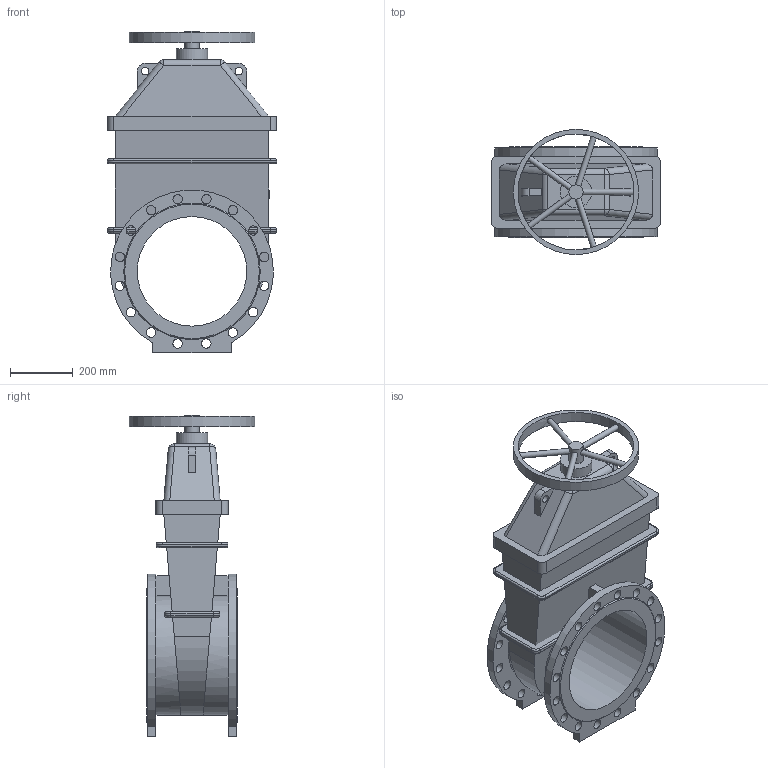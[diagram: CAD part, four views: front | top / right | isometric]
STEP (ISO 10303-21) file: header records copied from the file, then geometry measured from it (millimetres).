
FILE_DESCRIPTION(('STEP AP203'), '1');
FILE_NAME('Çàäâèæêà 47GV DN350 PN10_PN16_L290 ñ ìàõîâèêîì', '', ('UNSPECIFIED'), ('UNSPECIFIED'), 'ASCON STEP Converter 1.6', 'ASCON Math Kernel', '');
FILE_SCHEMA(('CONFIG_CONTROL_DESIGN'));
Length unit declared in the file: millimetre
Bounding box: 540 x 400 x 1027 mm (x, y, z)
Volume: 54101197.6 mm3; surface area: 2263987.3 mm2
Topology: 1 solids, 1 shells, 210 faces, 536 edges, 332 vertices
Faces by surface type: cylinder 99, plane 89, bspline 14, torus 6, cone 2
Full cylindrical faces by diameter (mm): 18 x5, 25 x2, 30 x32, 45 x1, 100 x1, 350 x1, 370 x1, 400 x1
Entity records: 10487 total; most frequent: CARTESIAN_POINT 3816, DIRECTION 985, ORIENTED_EDGE 970, EDGE_CURVE 485, AXIS2_PLACEMENT_3D 373, EDGE_LOOP 353, VERTEX_POINT 332, FACE_BOUND 262
